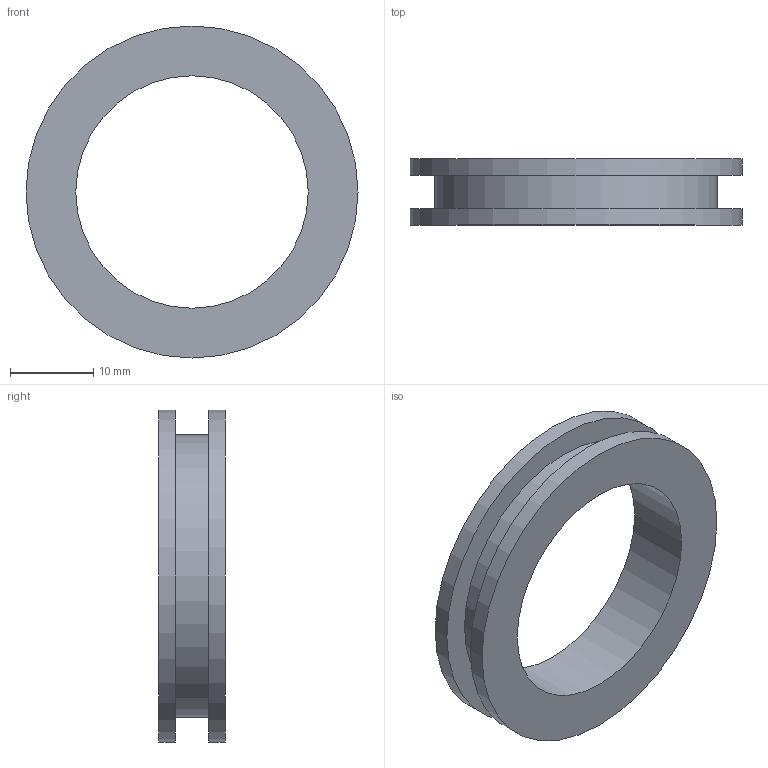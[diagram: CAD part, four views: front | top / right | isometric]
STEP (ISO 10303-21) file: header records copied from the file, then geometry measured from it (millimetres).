
FILE_DESCRIPTION(('FreeCAD Model'),'2;1');
FILE_NAME('Open CASCADE Shape Model','2026-10-19T19:41:49',('FreeCAD'),( 'FreeCAD'),'Open CASCADE STEP processor 7.8','FreeCAD','Unknown');
FILE_SCHEMA(('AUTOMOTIVE_DESIGN { 1 0 10303 214 1 1 1 1 }'));
Length unit declared in the file: millimetre
Products named in the file (1): Open CASCADE STEP translator 7.8 14
Bounding box: 40 x 8 x 40 mm (x, y, z)
Volume: 3732.2 mm3; surface area: 3612.8 mm2
Topology: 1 solids, 1 shells, 8 faces, 12 edges, 8 vertices
Faces by surface type: cylinder 4, plane 4
Full cylindrical faces by diameter (mm): 28 x1, 34 x1, 40 x2
Entity records: 197 total; most frequent: DIRECTION 37, CARTESIAN_POINT 30, ORIENTED_EDGE 24, AXIS2_PLACEMENT_3D 17, FACE_BOUND 12, EDGE_LOOP 12, EDGE_CURVE 12, ADVANCED_FACE 8
